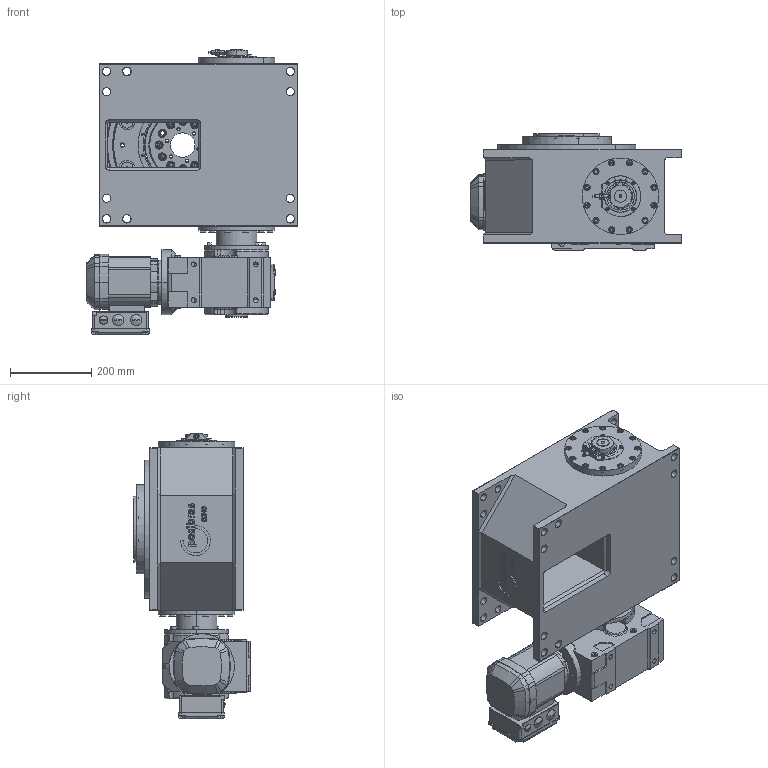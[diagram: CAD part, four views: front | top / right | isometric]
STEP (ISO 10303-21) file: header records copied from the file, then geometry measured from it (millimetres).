
FILE_DESCRIPTION (( 'STEP AP214' ), '1' );
FILE_NAME ('M340_SEW_KA57DRS71S4_D1_08.STEP', '2020-06-17T12:18:35', ( '' ), ( '' ), 'SwSTEP 2.0', 'SolidWorks 2020', '' );
FILE_SCHEMA (( 'AUTOMOTIVE_DESIGN' ));
Length unit declared in the file: millimetre
Products named in the file (1): M340_SEW_KA57DRS71S4_D1_08
Bounding box: 518.5 x 286 x 701.47 mm (x, y, z)
Surface area: 1558173.9 mm2 (no closed solid volume)
Topology: 0 solids, 112 shells, 1664 faces, 5001 edges, 3323 vertices
Faces by surface type: plane 806, cylinder 466, cone 207, bspline 95, torus 90
Entity records: 78499 total; most frequent: CARTESIAN_POINT 15709, DIRECTION 9414, ORIENTED_EDGE 8330, EDGE_CURVE 4963, VERTEX_POINT 3323, AXIS2_PLACEMENT_3D 3300, LINE 2814, VECTOR 2814
